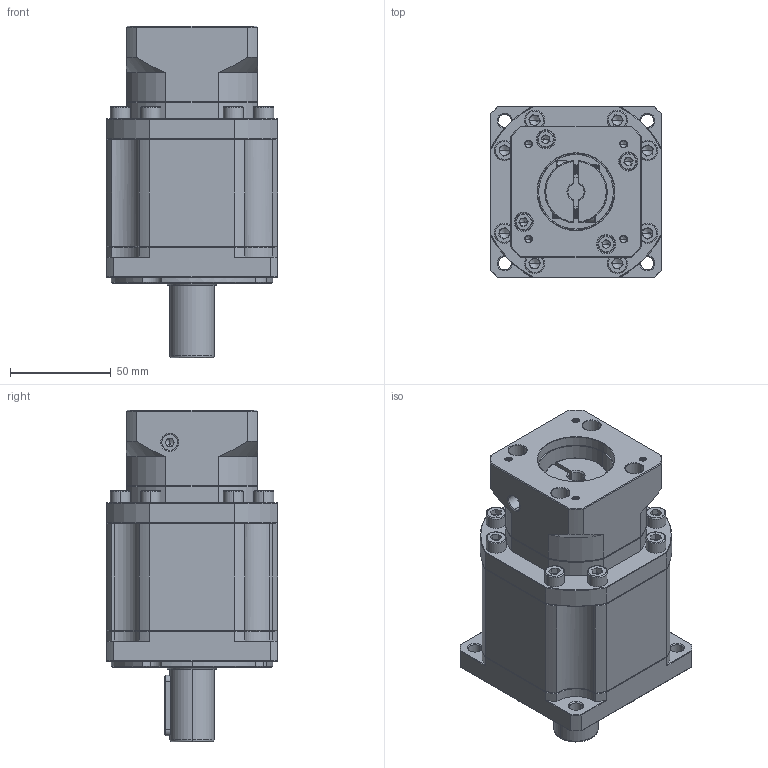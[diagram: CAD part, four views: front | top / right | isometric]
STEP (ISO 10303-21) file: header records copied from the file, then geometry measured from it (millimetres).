
FILE_DESCRIPTION (( 'STEP AP214' ), '1' );
FILE_NAME ('ZB090-D22-L3-P2-8-38.1-47.14X47.14-M4.step', '2023-08-18T13:39:25', ( '' ), ( '' ), 'SwSTEP 2.0', 'SolidWorks 2016', '' );
FILE_SCHEMA (( 'AUTOMOTIVE_DESIGN' ));
Length unit declared in the file: millimetre
Products named in the file (1): ZB090-D22-L3-P2-8-38.1-47.14X47.14-M4
Bounding box: 85 x 85 x 164.5 mm (x, y, z)
Volume: 671678.8 mm3; surface area: 82441.1 mm2
Topology: 6 solids, 6 shells, 2350 faces, 6249 edges, 3995 vertices
Faces by surface type: plane 1185, bspline 426, cylinder 394, cone 323, torus 22
Entity records: 123182 total; most frequent: CARTESIAN_POINT 42238, ORIENTED_EDGE 12406, DIRECTION 9894, EDGE_CURVE 6203, VERTEX_POINT 3995, VECTOR 3926, LINE 3926, AXIS2_PLACEMENT_3D 2984
